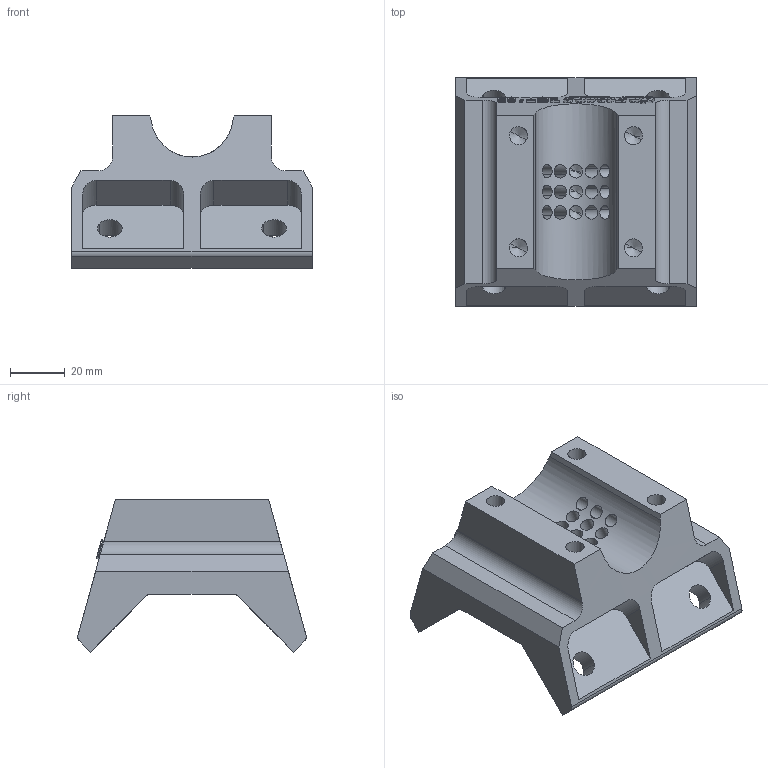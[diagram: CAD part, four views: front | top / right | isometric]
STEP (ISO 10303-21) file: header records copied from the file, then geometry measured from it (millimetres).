
FILE_DESCRIPTION(('CATIA V5 STEP Exchange'),'2;1');
FILE_NAME('C:\Users\User\Desktop\stp\EGT100.stp','2017-07-21T01:32:59+00:00',('none'),('none'),'CATIA Version 5 Release 21 GA (IN-10)','CATIA V5 STEP AP203','none');
FILE_SCHEMA(('CONFIG_CONTROL_DESIGN'));
Length unit declared in the file: millimetre
Products named in the file (1): EGT100
Bounding box: 88 x 83.5 x 55.55 mm (x, y, z)
Volume: 157983.5 mm3; surface area: 36600.8 mm2
Topology: 1 solids, 1 shells, 1023 faces, 2947 edges, 1933 vertices
Faces by surface type: plane 818, extrusion 100, cylinder 67, cone 38
Entity records: 34435 total; most frequent: CARTESIAN_POINT 8474, ORIENTED_EDGE 5818, DIRECTION 4484, EDGE_CURVE 2909, VECTOR 2663, LINE 2563, VERTEX_POINT 1933, EDGE_LOOP 1076
